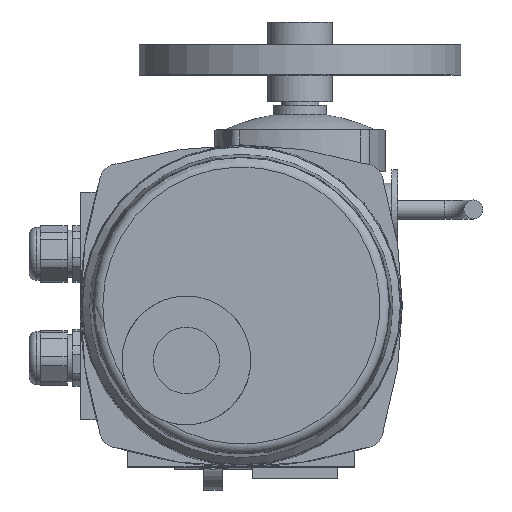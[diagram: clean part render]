
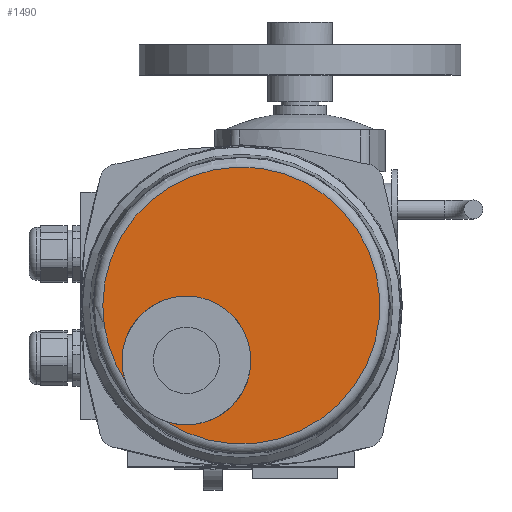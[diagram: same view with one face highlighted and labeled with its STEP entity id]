
A CAD part, top view. The second image highlights one B-rep face of the part: STEP entity #1490.
In plain terms, the highlighted planar face has unit normal (0, 0, 1).
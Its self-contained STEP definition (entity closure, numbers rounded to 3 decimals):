
#1490=ADVANCED_FACE('',(#8480),#8482,.T.);
#8480=FACE_BOUND('',#8481,.T.);
#8481=EDGE_LOOP('',(#13832,#13833,#13834,#13835));
#8482=PLANE('',#8483);
#8483=AXIS2_PLACEMENT_3D('',#8484,#8485,#8486);
#8484=CARTESIAN_POINT('',(15.,35.,397.));
#8485=DIRECTION('',(0.,0.,1.));
#8486=DIRECTION('',(-1.,0.,0.));
#13832=ORIENTED_EDGE('',*,*,#17783,.F.);
#13833=ORIENTED_EDGE('',*,*,#17784,.F.);
#13834=ORIENTED_EDGE('',*,*,#17770,.F.);
#13835=ORIENTED_EDGE('',*,*,#17769,.F.);
#17769=EDGE_CURVE('',#20203,#20206,#20207,.T.);
#17770=EDGE_CURVE('',#20206,#20204,#20208,.T.);
#17783=EDGE_CURVE('',#20229,#20203,#20230,.T.);
#17784=EDGE_CURVE('',#20204,#20229,#20231,.T.);
#20203=VERTEX_POINT('',#25033);
#20204=VERTEX_POINT('',#25034);
#20206=VERTEX_POINT('',#25063);
#20207=CIRCLE('',#25064,73.139);
#20208=CIRCLE('',#25068,73.139);
#20229=VERTEX_POINT('',#25121);
#20230=CIRCLE('',#25122,34.);
#20231=CIRCLE('',#25126,34.);
#25033=CARTESIAN_POINT('',(-46.08,-5.231,397.));
#25034=CARTESIAN_POINT('',(-25.231,-26.08,397.));
#25063=CARTESIAN_POINT('',(-58.139,35.,397.));
#25064=AXIS2_PLACEMENT_3D('',#25065,#25066,#25067);
#25065=CARTESIAN_POINT('',(15.,35.,397.));
#25066=DIRECTION('',(0.,0.,-1.));
#25067=DIRECTION('',(-0.835,-0.55,0.));
#25068=AXIS2_PLACEMENT_3D('',#25069,#25070,#25071);
#25069=CARTESIAN_POINT('',(15.,35.,397.));
#25070=DIRECTION('',(0.,0.,-1.));
#25071=DIRECTION('',(-1.,0.,0.));
#25121=CARTESIAN_POINT('',(-13.991,40.009,397.));
#25122=AXIS2_PLACEMENT_3D('',#25123,#25124,#25125);
#25123=CARTESIAN_POINT('',(-13.991,6.009,397.));
#25124=DIRECTION('',(0.,0.,1.));
#25125=DIRECTION('',(0.,1.,0.));
#25126=AXIS2_PLACEMENT_3D('',#25127,#25128,#25129);
#25127=CARTESIAN_POINT('',(-13.991,6.009,397.));
#25128=DIRECTION('',(0.,0.,1.));
#25129=DIRECTION('',(-0.331,-0.944,0.));
